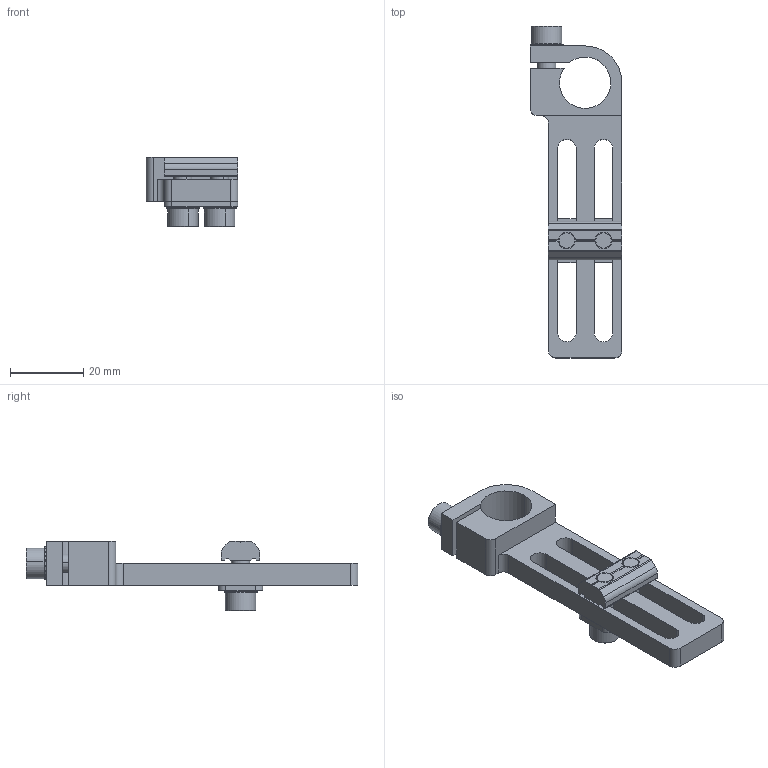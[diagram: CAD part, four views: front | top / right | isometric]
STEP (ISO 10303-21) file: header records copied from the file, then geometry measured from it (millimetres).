
FILE_DESCRIPTION (( 'STEP AP214' ), '1' );
FILE_NAME ('SMBE1-1450T.STEP', '2022-12-14T02:50:30', ( '' ), ( '' ), 'SwSTEP 2.0', 'SolidWorks 2018', '' );
FILE_SCHEMA (( 'AUTOMOTIVE_DESIGN' ));
Length unit declared in the file: millimetre
Products named in the file (1): SMBE1-1450T
Bounding box: 25 x 90.45 x 19 mm (x, y, z)
Volume: 10376.7 mm3; surface area: 9367.9 mm2
Topology: 9 solids, 9 shells, 649 faces, 1884 edges, 1250 vertices
Faces by surface type: plane 561, cylinder 70, cone 18
Entity records: 28941 total; most frequent: CARTESIAN_POINT 3976, DIRECTION 3782, ORIENTED_EDGE 3768, EDGE_CURVE 1884, AXIS2_PLACEMENT_3D 1280, VERTEX_POINT 1250, VECTOR 1222, LINE 1222
